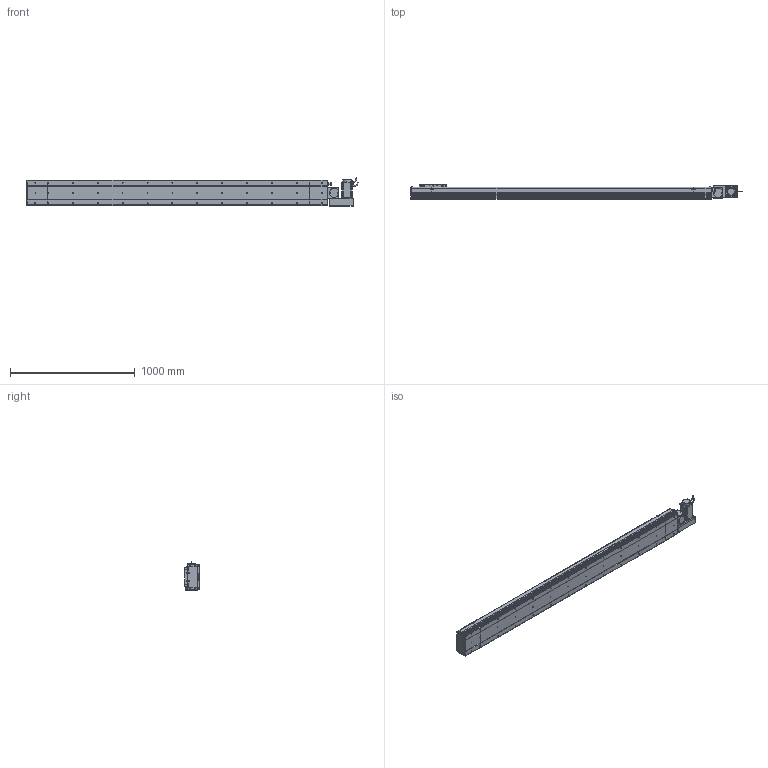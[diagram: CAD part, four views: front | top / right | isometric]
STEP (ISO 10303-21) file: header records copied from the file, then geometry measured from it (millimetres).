
FILE_DESCRIPTION (( 'STEP AP214' ), '1' );
FILE_NAME ('D20 CBH RH S2100.STEP', '2010-06-30T09:59:42', ( 'Conseil Régional Haute-Normandie' ), ( 'Conseil Régional Haute-Normandie' ), 'SwSTEP 2.0', 'SolidWorks 2010', '' );
FILE_SCHEMA (( 'AUTOMOTIVE_DESIGN' ));
Length unit declared in the file: millimetre
Products named in the file (31): D20 CBH RH S2100; Corp Tail D20 RH_Default; Tail D20+100_Default; Couvercle S2100_Default; Corp S2100_Default; Head D20 RH_Default; Couvercle RH_Default; Corp D20 S2100_Default; Glissiere_Default; Plaque De Serrage D20 RH_Default; Plaque de Bout Head D20 RH_Default; Chariot D20_Default; Support Chariot D20_Default; Rondelle Cache D20 RH_Default; vis M5 L47_Default; Support moteur RH_Default; ecrou_Default; avant 90BLDC125A-640; Moteur motionking 90BLDC125A-640; Cache Support Moteur RH_Default; vis M5 L30_Default; corps 90BLDC125A-640; Conecteur2_Default; codeur 90BLDC125-640; Conecteur_Default; Plaque de Bout Tail D20_Default; Couvercle_Default; Corp Tail D20+100_Default; vis M5 L15_Default; Plaque De Serrage D20_Default
Assembly tree (68 placements, depth 4):
  D20 CBH RH S2100
    Corp D20 S2100_Default
      Couvercle S2100_Default
      Corp S2100_Default
    Tail D20+100_Default
      vis M5 L15_Default  x6
      Plaque de Bout Tail D20_Default
      Couvercle_Default
      Corp Tail D20+100_Default
      Plaque De Serrage D20_Default
    Head D20 RH_Default
      ecrou_Default  x4
      Moteur motionking 90BLDC125A-640
        codeur 90BLDC125-640
        Conecteur_Default
        avant 90BLDC125A-640
        corps 90BLDC125A-640
        Conecteur2_Default
      vis M5 L15_Default  x14
      Rondelle Cache D20 RH_Default  x3
      vis M5 L30_Default  x4
      vis M5 L47_Default  x4
      Plaque De Serrage D20 RH_Default
      Corp Tail D20 RH_Default
      Support moteur RH_Default
      Plaque de Bout Head D20 RH_Default
      Couvercle RH_Default
      Cache Support Moteur RH_Default
    Chariot D20_Default
      vis M5 L15_Default  x8
      Glissiere_Default
      Support Chariot D20_Default
      Chariot D20_Default
Bounding box: 2665.45 x 119.5 x 229.7 mm (x, y, z)
Volume: 17555607.9 mm3; surface area: 3424369.6 mm2
Topology: 105 solids, 105 shells, 3829 faces, 9534 edges, 6190 vertices
Faces by surface type: plane 2134, bspline 806, cylinder 718, torus 95, cone 72, sphere 4
Entity records: 159830 total; most frequent: CARTESIAN_POINT 82385, ORIENTED_EDGE 15336, DIRECTION 11686, EDGE_CURVE 7668, VERTEX_POINT 5074, VECTOR 4960, LINE 4960, AXIS2_PLACEMENT_3D 3363
